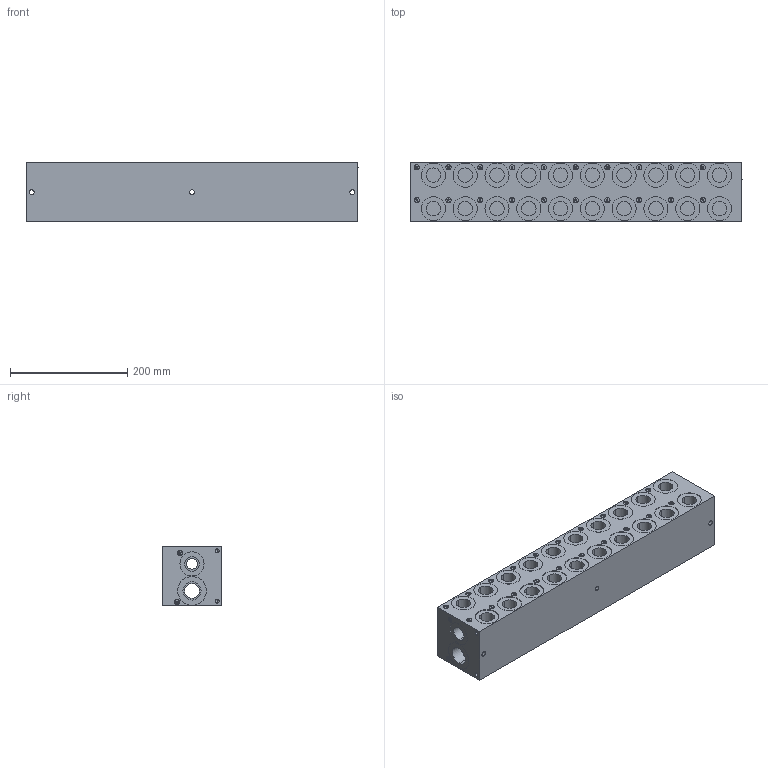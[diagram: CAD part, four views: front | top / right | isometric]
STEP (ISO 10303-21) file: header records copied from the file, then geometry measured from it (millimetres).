
FILE_DESCRIPTION (( 'STEP AP203' ), '1' );
FILE_NAME ('BMR-AHP03S2-10-1_Z.STEP', '2015-01-06T15:25:38', ( '' ), ( '' ), 'SwSTEP 2.0', 'SolidWorks 2014', '' );
FILE_SCHEMA (( 'CONFIG_CONTROL_DESIGN' ));
Length unit declared in the file: inch
Products named in the file (1): BMR-AHP03S2-10-1_Z
Bounding box: 565.15 x 101.6 x 101.6 mm (x, y, z)
Volume: 5136140.6 mm3; surface area: 382536.1 mm2
Topology: 1 solids, 1 shells, 1183 faces, 2824 edges, 1726 vertices
Faces by surface type: plane 457, cylinder 428, cone 188, bspline 110
Entity records: 39077 total; most frequent: CARTESIAN_POINT 12520, DIRECTION 5420, ORIENTED_EDGE 5272, EDGE_CURVE 2636, AXIS2_PLACEMENT_3D 1930, VERTEX_POINT 1726, VECTOR 1560, LINE 1560
